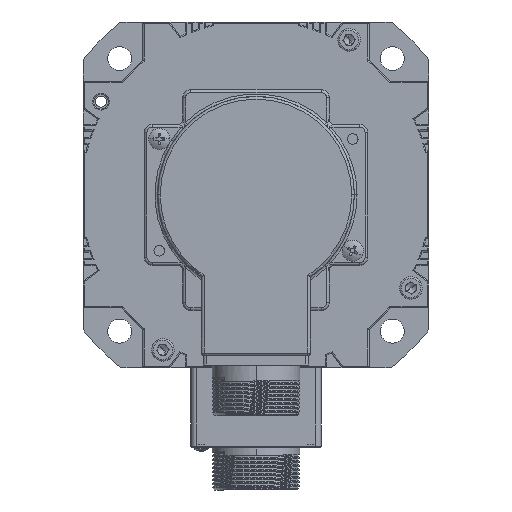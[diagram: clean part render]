
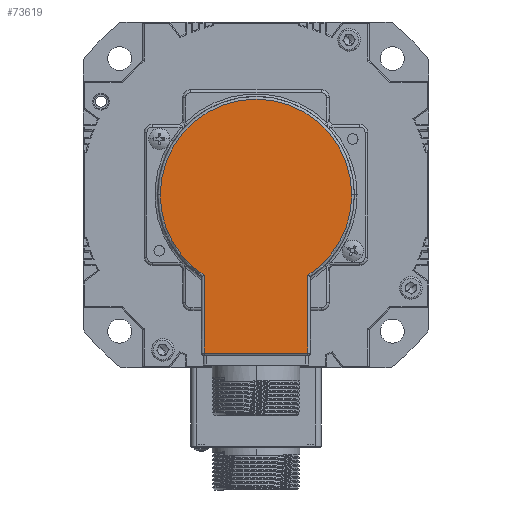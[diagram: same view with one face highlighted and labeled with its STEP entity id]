
A CAD part, front view. The second image highlights one B-rep face of the part: STEP entity #73619.
In plain terms, the highlighted planar face has unit normal (0, -1, 0) as drawn and (0, 0, -1) by its records, which use the part's own axes.
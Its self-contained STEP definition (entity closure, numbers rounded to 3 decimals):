
#678 = DIRECTION ( 'NONE',  ( 1., 0., 0. ) ) ;
#4344 = ORIENTED_EDGE ( 'NONE', *, *, #56820, .T. ) ;
#8006 = LINE ( 'NONE', #60091, #12399 ) ;
#9026 = CARTESIAN_POINT ( 'NONE',  ( -19.5, 30.261, -33. ) ) ;
#10195 = ORIENTED_EDGE ( 'NONE', *, *, #73733, .T. ) ;
#12399 = VECTOR ( 'NONE', #53604, 1000. ) ;
#12618 = DIRECTION ( 'NONE',  ( 0., 0., -1. ) ) ;
#19080 = EDGE_CURVE ( 'NONE', #39383, #28165, #43440, .T. ) ;
#19617 = ORIENTED_EDGE ( 'NONE', *, *, #61821, .T. ) ;
#22716 = LINE ( 'NONE', #35026, #61090 ) ;
#23931 = AXIS2_PLACEMENT_3D ( 'NONE', #70414, #59433, #59932 ) ;
#24619 = DIRECTION ( 'NONE',  ( 0., 1., 0. ) ) ;
#26697 = AXIS2_PLACEMENT_3D ( 'NONE', #51098, #73322, #56860 ) ;
#27610 = CIRCLE ( 'NONE', #30067, 36. ) ;
#28011 = ORIENTED_EDGE ( 'NONE', *, *, #19080, .T. ) ;
#28165 = VERTEX_POINT ( 'NONE', #9026 ) ;
#30067 = AXIS2_PLACEMENT_3D ( 'NONE', #46768, #12618, #47019 ) ;
#32600 = VERTEX_POINT ( 'NONE', #58450 ) ;
#35026 = CARTESIAN_POINT ( 'NONE',  ( 20.5, 59.5, -33. ) ) ;
#38974 = CARTESIAN_POINT ( 'NONE',  ( -36., 0., -33. ) ) ;
#39383 = VERTEX_POINT ( 'NONE', #38974 ) ;
#39405 = CARTESIAN_POINT ( 'NONE',  ( 19.5, 59.5, -33. ) ) ;
#40098 = PLANE ( 'NONE',  #26697 ) ;
#42950 = EDGE_LOOP ( 'NONE', ( #10195, #72420, #19617, #4344, #55497, #28011 ) ) ;
#43440 = CIRCLE ( 'NONE', #23931, 36. ) ;
#45380 = FACE_OUTER_BOUND ( 'NONE', #42950, .T. ) ;
#46768 = CARTESIAN_POINT ( 'NONE',  ( 0., 0., -33. ) ) ;
#47019 = DIRECTION ( 'NONE',  ( -1., 0., 0. ) ) ;
#47269 = EDGE_CURVE ( 'NONE', #32600, #39383, #27610, .T. ) ;
#48314 = CARTESIAN_POINT ( 'NONE',  ( -19.5, 59.5, -33. ) ) ;
#48965 = LINE ( 'NONE', #70027, #69447 ) ;
#50446 = CIRCLE ( 'NONE', #72611, 36. ) ;
#51053 = VERTEX_POINT ( 'NONE', #55333 ) ;
#51098 = CARTESIAN_POINT ( 'NONE',  ( 0., 0., -33. ) ) ;
#53604 = DIRECTION ( 'NONE',  ( 0., -1., 0. ) ) ;
#54883 = VERTEX_POINT ( 'NONE', #48314 ) ;
#55333 = CARTESIAN_POINT ( 'NONE',  ( 19.5, 30.261, -33. ) ) ;
#55497 = ORIENTED_EDGE ( 'NONE', *, *, #47269, .T. ) ;
#56820 = EDGE_CURVE ( 'NONE', #51053, #32600, #50446, .T. ) ;
#56860 = DIRECTION ( 'NONE',  ( -1., 0., 0. ) ) ;
#58450 = CARTESIAN_POINT ( 'NONE',  ( 36., 0., -33. ) ) ;
#58756 = CARTESIAN_POINT ( 'NONE',  ( 0., 0., -33. ) ) ;
#59433 = DIRECTION ( 'NONE',  ( 0., 0., -1. ) ) ;
#59515 = DIRECTION ( 'NONE',  ( 0., 0., -1. ) ) ;
#59764 = DIRECTION ( 'NONE',  ( -1., 0., 0. ) ) ;
#59932 = DIRECTION ( 'NONE',  ( -1., 0., 0. ) ) ;
#60091 = CARTESIAN_POINT ( 'NONE',  ( 19.5, 30.802, -33. ) ) ;
#61090 = VECTOR ( 'NONE', #678, 1000. ) ;
#61821 = EDGE_CURVE ( 'NONE', #63883, #51053, #8006, .T. ) ;
#63883 = VERTEX_POINT ( 'NONE', #39405 ) ;
#64092 = EDGE_CURVE ( 'NONE', #54883, #63883, #22716, .T. ) ;
#69447 = VECTOR ( 'NONE', #24619, 1000. ) ;
#70027 = CARTESIAN_POINT ( 'NONE',  ( -19.5, 60.5, -33. ) ) ;
#70414 = CARTESIAN_POINT ( 'NONE',  ( 0., 0., -33. ) ) ;
#72420 = ORIENTED_EDGE ( 'NONE', *, *, #64092, .T. ) ;
#72611 = AXIS2_PLACEMENT_3D ( 'NONE', #58756, #59515, #59764 ) ;
#73322 = DIRECTION ( 'NONE',  ( 0., 0., -1. ) ) ;
#73619 = ADVANCED_FACE ( 'NONE', ( #45380 ), #40098, .T. ) ;
#73733 = EDGE_CURVE ( 'NONE', #28165, #54883, #48965, .T. ) ;
